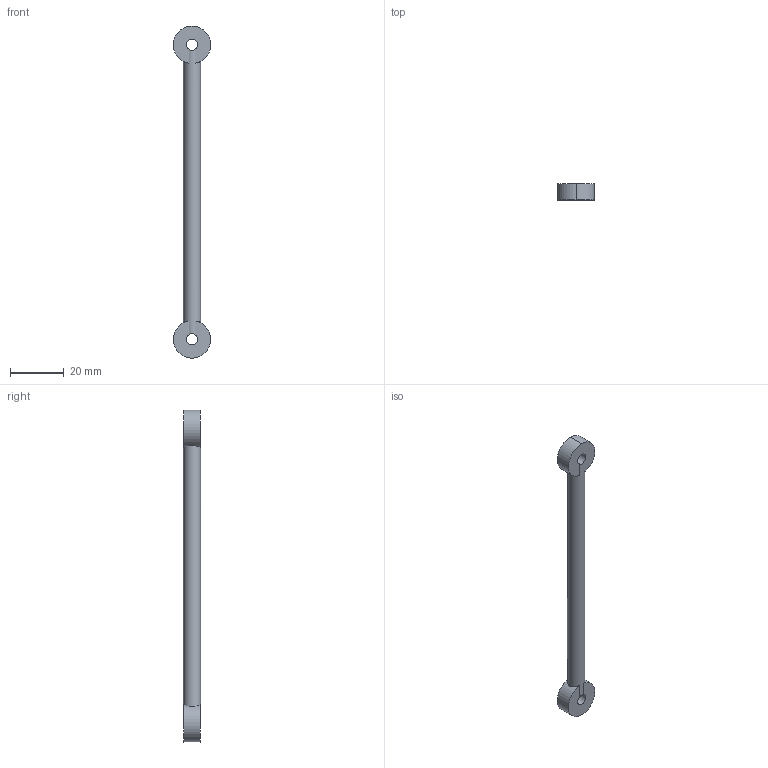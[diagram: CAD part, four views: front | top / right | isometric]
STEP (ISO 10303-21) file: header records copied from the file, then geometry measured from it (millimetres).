
FILE_DESCRIPTION(('Open CASCADE Model'),'2;1');
FILE_NAME('Open CASCADE Shape Model','2026-09-21T16:05:39',('Author'),( 'Open CASCADE'),'Open CASCADE STEP processor 7.8','Open CASCADE 7.8' ,'Unknown');
FILE_SCHEMA(('AUTOMOTIVE_DESIGN { 1 0 10303 214 1 1 1 1 }'));
Length unit declared in the file: millimetre
Products named in the file (1): Open CASCADE STEP translator 7.8 7
Bounding box: 13.98 x 6.4 x 123.97 mm (x, y, z)
Volume: 4787.3 mm3; surface area: 3129.2 mm2
Topology: 1 solids, 1 shells, 10 faces, 36 edges, 24 vertices
Faces by surface type: cylinder 6, plane 4
Full cylindrical faces by diameter (mm): 4.2 x2, 6.4 x1
Entity records: 2116 total; most frequent: CARTESIAN_POINT 1485, DIRECTION 90, ORIENTED_EDGE 72, PCURVE 72, DEFINITIONAL_REPRESENTATION 72, B_SPLINE_CURVE_WITH_KNOTS 52, EDGE_CURVE 36, SURFACE_CURVE 33
